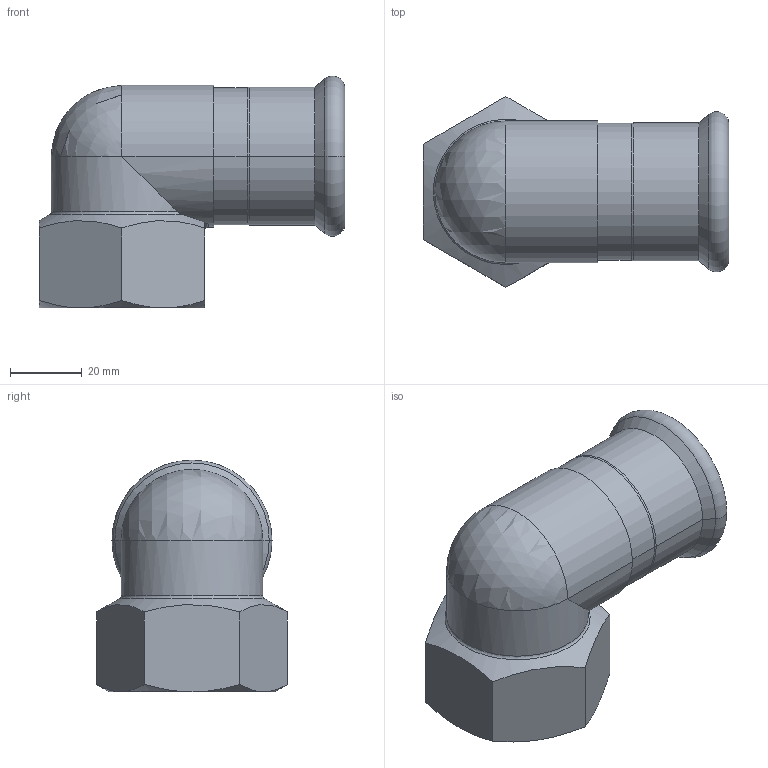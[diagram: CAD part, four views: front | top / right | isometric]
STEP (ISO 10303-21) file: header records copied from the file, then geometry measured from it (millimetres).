
FILE_DESCRIPTION(('Creo Elements/Direct Modeling STEP Export'),'2;1');
FILE_NAME('R2709 35xRp1 1-4.stp','2019-09-25T 8:29:52',(''),(''),'PTC Creo Elements/Direct Modeling STEP processor for AP214 (Solid Model)','PTC Creo Elements/Direct Modeling 19.0C 15-Aug-2015 (C) Parametric Technology GmbH','');
FILE_SCHEMA(('AUTOMOTIVE_DESIGN { 1 0 10303 214 1 1 1 1 }'));
Length unit declared in the file: millimetre
Products named in the file (1): R2709_35xRp1_1-4
Bounding box: 85 x 53.12 x 64.47 mm (x, y, z)
Volume: 37375 mm3; surface area: 27809.5 mm2
Topology: 1 solids, 1 shells, 85 faces, 211 edges, 132 vertices
Faces by surface type: plane 40, cylinder 28, cone 9, torus 6, sphere 2
Entity records: 3601 total; most frequent: CARTESIAN_POINT 1699, ORIENTED_EDGE 414, DIRECTION 343, EDGE_CURVE 207, VERTEX_POINT 132, AXIS2_PLACEMENT_3D 121, EDGE_LOOP 101, VECTOR 101
